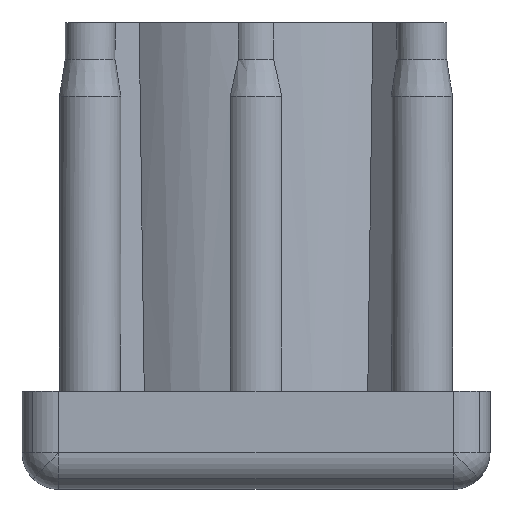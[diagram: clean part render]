
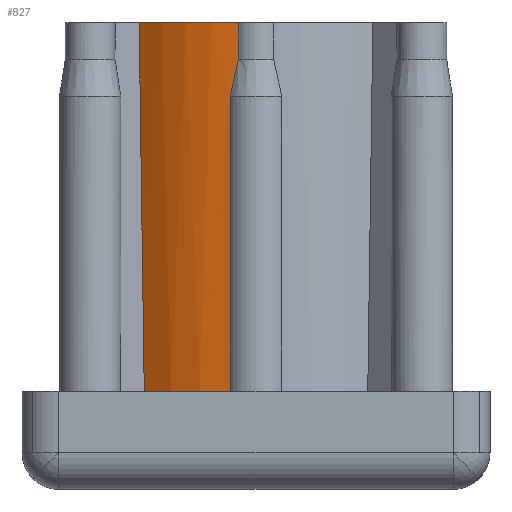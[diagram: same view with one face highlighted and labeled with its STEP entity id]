
A CAD part, front view. The second image highlights one B-rep face of the part: STEP entity #827.
In plain terms, the highlighted cylindrical face has radius 15 mm (diameter 30 mm), a partial arc.
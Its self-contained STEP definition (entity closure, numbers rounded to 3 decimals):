
#6 = ORIENTED_EDGE ( 'NONE', *, *, #602, .F. ) ;
#38 = DIRECTION ( 'NONE',  ( 1., 0., 0. ) ) ;
#235 = DIRECTION ( 'NONE',  ( 0., 0., 1. ) ) ;
#237 = VERTEX_POINT ( 'NONE', #1066 ) ;
#273 = EDGE_CURVE ( 'NONE', #3444, #4002, #2660, .T. ) ;
#278 = ORIENTED_EDGE ( 'NONE', *, *, #273, .T. ) ;
#329 = DIRECTION ( 'NONE',  ( -0.707, -0.707, -0.002 ) ) ;
#379 = CARTESIAN_POINT ( 'NONE',  ( -1.432, -14.931, 34.25 ) ) ;
#463 = CIRCLE ( 'NONE', #3660, 48254.36 ) ;
#529 = AXIS2_PLACEMENT_3D ( 'NONE', #898, #3701, #38 ) ;
#602 = EDGE_CURVE ( 'NONE', #1126, #2200, #2907, .T. ) ;
#635 = CARTESIAN_POINT ( 'NONE',  ( -1.432, -14.931, 34.25 ) ) ;
#706 = FACE_OUTER_BOUND ( 'NONE', #2902, .T. ) ;
#709 = VERTEX_POINT ( 'NONE', #379 ) ;
#818 = CARTESIAN_POINT ( 'NONE',  ( 0., 0., 7.25 ) ) ;
#827 = ADVANCED_FACE ( 'NONE', ( #706 ), #2667, .T. ) ;
#836 = DIRECTION ( 'NONE',  ( 1., 0., 0. ) ) ;
#898 = CARTESIAN_POINT ( 'NONE',  ( 0., 0., 37.25 ) ) ;
#931 = DIRECTION ( 'NONE',  ( 0.707, -0.707, 0.017 ) ) ;
#1004 = CARTESIAN_POINT ( 'NONE',  ( -9.098, -11.926, 7.25 ) ) ;
#1066 = CARTESIAN_POINT ( 'NONE',  ( -2.103, -14.852, 31.25 ) ) ;
#1126 = VERTEX_POINT ( 'NONE', #4003 ) ;
#1194 = CARTESIAN_POINT ( 'NONE',  ( -2.103, -14.852, 7.25 ) ) ;
#1210 = CARTESIAN_POINT ( 'NONE',  ( 34110.396, 34110.363, 120.499 ) ) ;
#1229 = CARTESIAN_POINT ( 'NONE',  ( -2.103, -14.852, 31.25 ) ) ;
#1243 = CARTESIAN_POINT ( 'NONE',  ( -1.632, -14.912, 33.442 ) ) ;
#1359 = DIRECTION ( 'NONE',  ( -1., 0., 0. ) ) ;
#1392 = LINE ( 'NONE', #1767, #3923 ) ;
#1611 = AXIS2_PLACEMENT_3D ( 'NONE', #3817, #1679, #1359 ) ;
#1679 = DIRECTION ( 'NONE',  ( 0., 0., -1. ) ) ;
#1711 = ORIENTED_EDGE ( 'NONE', *, *, #2165, .T. ) ;
#1767 = CARTESIAN_POINT ( 'NONE',  ( -1.432, -14.931, 35.75 ) ) ;
#1870 = CARTESIAN_POINT ( 'NONE',  ( -1.856, -14.887, 32.442 ) ) ;
#2081 = ORIENTED_EDGE ( 'NONE', *, *, #3223, .T. ) ;
#2100 = LINE ( 'NONE', #3607, #3227 ) ;
#2165 = EDGE_CURVE ( 'NONE', #1126, #3444, #463, .T. ) ;
#2178 = CARTESIAN_POINT ( 'NONE',  ( -1.432, -14.931, 37.25 ) ) ;
#2200 = VERTEX_POINT ( 'NONE', #2178 ) ;
#2342 = B_SPLINE_CURVE_WITH_KNOTS ( 'NONE', 3,
 ( #1229, #1870, #1243, #635 ),
 .UNSPECIFIED., .F., .F.,
 ( 4, 4 ),
 ( 0., 1. ),
 .UNSPECIFIED. ) ;
#2405 = DIRECTION ( 'NONE',  ( 0., 0., 1. ) ) ;
#2537 = EDGE_CURVE ( 'NONE', #237, #709, #2342, .T. ) ;
#2647 = AXIS2_PLACEMENT_3D ( 'NONE', #818, #2670, #836 ) ;
#2660 = CIRCLE ( 'NONE', #2647, 15. ) ;
#2667 = CYLINDRICAL_SURFACE ( 'NONE', #1611, 15. ) ;
#2670 = DIRECTION ( 'NONE',  ( 0., 0., 1. ) ) ;
#2902 = EDGE_LOOP ( 'NONE', ( #6, #1711, #278, #2081, #3659, #3944 ) ) ;
#2907 = CIRCLE ( 'NONE', #529, 15. ) ;
#2993 = EDGE_CURVE ( 'NONE', #709, #2200, #1392, .T. ) ;
#3223 = EDGE_CURVE ( 'NONE', #4002, #237, #2100, .T. ) ;
#3227 = VECTOR ( 'NONE', #2405, 1000. ) ;
#3444 = VERTEX_POINT ( 'NONE', #1004 ) ;
#3607 = CARTESIAN_POINT ( 'NONE',  ( -2.103, -14.852, 22.25 ) ) ;
#3659 = ORIENTED_EDGE ( 'NONE', *, *, #2537, .T. ) ;
#3660 = AXIS2_PLACEMENT_3D ( 'NONE', #1210, #931, #329 ) ;
#3701 = DIRECTION ( 'NONE',  ( 0., 0., 1. ) ) ;
#3817 = CARTESIAN_POINT ( 'NONE',  ( 0., 0., 37.25 ) ) ;
#3923 = VECTOR ( 'NONE', #235, 1000. ) ;
#3944 = ORIENTED_EDGE ( 'NONE', *, *, #2993, .T. ) ;
#4002 = VERTEX_POINT ( 'NONE', #1194 ) ;
#4003 = CARTESIAN_POINT ( 'NONE',  ( -9.511, -11.599, 37.25 ) ) ;
